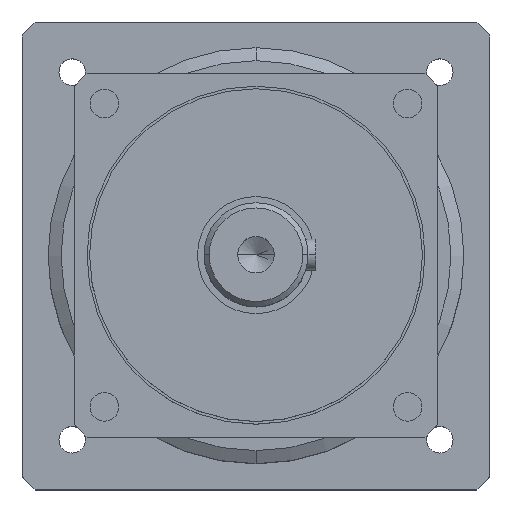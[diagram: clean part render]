
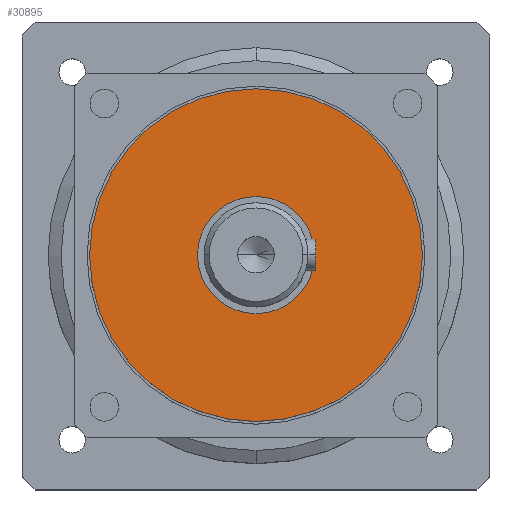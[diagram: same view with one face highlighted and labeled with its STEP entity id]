
A CAD part, top view. The second image highlights one B-rep face of the part: STEP entity #30895.
In plain terms, the highlighted planar face has unit normal (0, 0, 1).
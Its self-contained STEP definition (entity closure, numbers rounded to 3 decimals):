
#504 = VERTEX_POINT ( 'NONE', #19589 ) ;
#1074 = AXIS2_PLACEMENT_3D ( 'NONE', #7735, #25150, #10148 ) ;
#1082 = EDGE_CURVE ( 'NONE', #504, #21036, #4764, .T. ) ;
#1232 = CIRCLE ( 'NONE', #16286, 64. ) ;
#1356 = DIRECTION ( 'NONE',  ( 0., 0., -1. ) ) ;
#3952 = EDGE_CURVE ( 'NONE', #21036, #504, #10028, .T. ) ;
#4082 = EDGE_CURVE ( 'NONE', #20599, #26503, #18653, .T. ) ;
#4762 = ORIENTED_EDGE ( 'NONE', *, *, #1082, .T. ) ;
#4764 = CIRCLE ( 'NONE', #27210, 22.5 ) ;
#6703 = ORIENTED_EDGE ( 'NONE', *, *, #3952, .T. ) ;
#7344 = CARTESIAN_POINT ( 'NONE',  ( 0., 0., 8. ) ) ;
#7682 = CARTESIAN_POINT ( 'NONE',  ( 64., 0., 8. ) ) ;
#7735 = CARTESIAN_POINT ( 'NONE',  ( 0., 0., 8. ) ) ;
#9729 = DIRECTION ( 'NONE',  ( -1., 0., 0. ) ) ;
#9957 = PLANE ( 'NONE',  #24099 ) ;
#10028 = CIRCLE ( 'NONE', #1074, 22.5 ) ;
#10148 = DIRECTION ( 'NONE',  ( -1., 0., 0. ) ) ;
#11942 = AXIS2_PLACEMENT_3D ( 'NONE', #16061, #1356, #18649 ) ;
#12549 = ORIENTED_EDGE ( 'NONE', *, *, #4082, .F. ) ;
#13157 = DIRECTION ( 'NONE',  ( 0., 0., -1. ) ) ;
#14407 = EDGE_LOOP ( 'NONE', ( #29292, #12549 ) ) ;
#14889 = DIRECTION ( 'NONE',  ( 1., 0., 0. ) ) ;
#15617 = EDGE_CURVE ( 'NONE', #26503, #20599, #1232, .T. ) ;
#16061 = CARTESIAN_POINT ( 'NONE',  ( 0., 0., 8. ) ) ;
#16286 = AXIS2_PLACEMENT_3D ( 'NONE', #28211, #13157, #30695 ) ;
#18649 = DIRECTION ( 'NONE',  ( 1., 0., 0. ) ) ;
#18653 = CIRCLE ( 'NONE', #11942, 64. ) ;
#19589 = CARTESIAN_POINT ( 'NONE',  ( -22.5, 0., 8. ) ) ;
#20599 = VERTEX_POINT ( 'NONE', #23339 ) ;
#21036 = VERTEX_POINT ( 'NONE', #22731 ) ;
#22731 = CARTESIAN_POINT ( 'NONE',  ( 22.5, 0., 8. ) ) ;
#23339 = CARTESIAN_POINT ( 'NONE',  ( -64., 0., 8. ) ) ;
#24099 = AXIS2_PLACEMENT_3D ( 'NONE', #24947, #29987, #14889 ) ;
#24729 = DIRECTION ( 'NONE',  ( 0., 0., -1. ) ) ;
#24947 = CARTESIAN_POINT ( 'NONE',  ( 0., 0., 8. ) ) ;
#25150 = DIRECTION ( 'NONE',  ( 0., 0., -1. ) ) ;
#25264 = FACE_OUTER_BOUND ( 'NONE', #14407, .T. ) ;
#26503 = VERTEX_POINT ( 'NONE', #7682 ) ;
#27210 = AXIS2_PLACEMENT_3D ( 'NONE', #7344, #24729, #9729 ) ;
#28211 = CARTESIAN_POINT ( 'NONE',  ( 0., 0., 8. ) ) ;
#28567 = EDGE_LOOP ( 'NONE', ( #4762, #6703 ) ) ;
#29292 = ORIENTED_EDGE ( 'NONE', *, *, #15617, .F. ) ;
#29987 = DIRECTION ( 'NONE',  ( 0., 0., 1. ) ) ;
#30695 = DIRECTION ( 'NONE',  ( 1., 0., 0. ) ) ;
#30895 = ADVANCED_FACE ( 'NONE', ( #31900, #25264 ), #9957, .T. ) ;
#31900 = FACE_BOUND ( 'NONE', #28567, .T. ) ;
